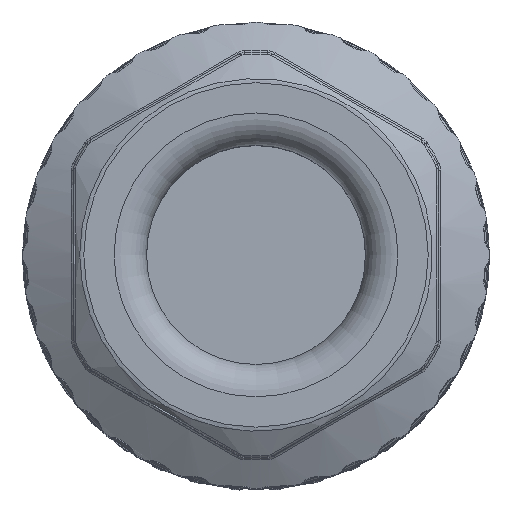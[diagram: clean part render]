
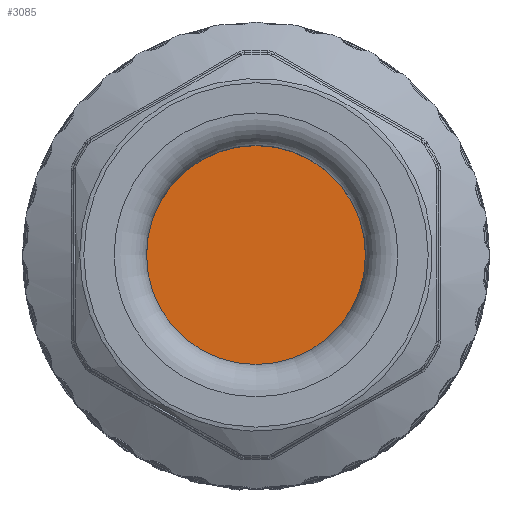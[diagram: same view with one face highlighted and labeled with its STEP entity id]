
A CAD part, top view. The second image highlights one B-rep face of the part: STEP entity #3085.
In plain terms, the highlighted planar face has unit normal (0, 0, 1).
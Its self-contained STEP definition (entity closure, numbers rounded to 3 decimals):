
#2228=FACE_OUTER_BOUND('',#4182,.T.);
#3085=ADVANCED_FACE('',(#2228),#3500,.T.);
#3500=PLANE('',#16502);
#4182=EDGE_LOOP('',(#8168));
#5131=CIRCLE('',#16501,2.7);
#8168=ORIENTED_EDGE('',*,*,#13088,.F.);
#11050=VERTEX_POINT('',#28977);
#13088=EDGE_CURVE('',#11050,#11050,#5131,.T.);
#16501=AXIS2_PLACEMENT_3D('',#28976,#19551,#19552);
#16502=AXIS2_PLACEMENT_3D('',#28978,#19553,#19554);
#19551=DIRECTION('',(0.,0.,-1.));
#19552=DIRECTION('',(1.,0.,0.));
#19553=DIRECTION('',(0.,0.,1.));
#19554=DIRECTION('',(-0.809,-0.588,0.));
#28976=CARTESIAN_POINT('',(0.,0.,27.107));
#28977=CARTESIAN_POINT('',(2.7,0.,27.107));
#28978=CARTESIAN_POINT('',(0.,0.,27.107));
